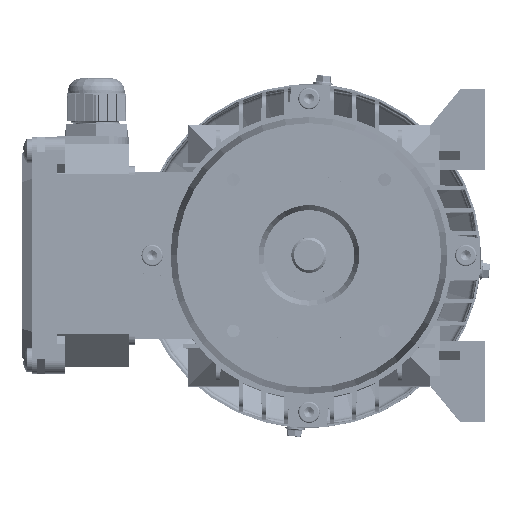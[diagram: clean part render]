
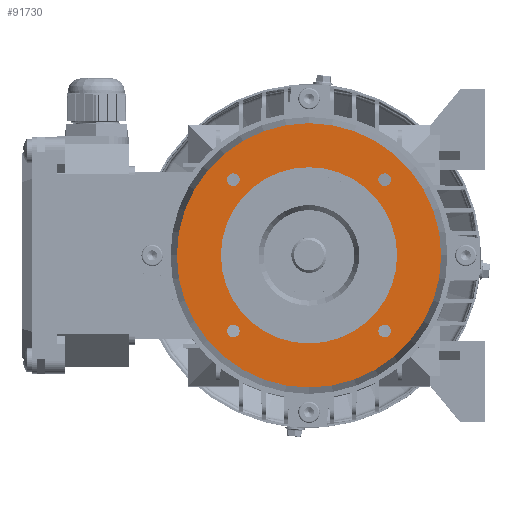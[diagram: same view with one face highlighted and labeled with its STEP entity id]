
A CAD part, top view. The second image highlights one B-rep face of the part: STEP entity #91730.
In plain terms, the highlighted planar face has unit normal (0, 0, 1).
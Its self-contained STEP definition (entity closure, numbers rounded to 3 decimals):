
#1490 = EDGE_CURVE ( 'NONE', #19619, #79712, #73488, .T. ) ;
#1855 = FACE_BOUND ( 'NONE', #131984, .T. ) ;
#1857 = EDGE_CURVE ( 'NONE', #119049, #99952, #104040, .T. ) ;
#3333 = DIRECTION ( 'NONE',  ( 0., 0., 1. ) ) ;
#4853 = CARTESIAN_POINT ( 'NONE',  ( -30.052, 30.052, -2.5 ) ) ;
#5046 = DIRECTION ( 'NONE',  ( 1., 0., 0. ) ) ;
#5124 = DIRECTION ( 'NONE',  ( 1., 0., 0. ) ) ;
#5355 = CARTESIAN_POINT ( 'NONE',  ( -30.052, -30.052, -2.5 ) ) ;
#6293 = EDGE_CURVE ( 'NONE', #79712, #19619, #58825, .T. ) ;
#7204 = DIRECTION ( 'NONE',  ( 1., 0., 0. ) ) ;
#9164 = CARTESIAN_POINT ( 'NONE',  ( 27.552, -30.052, -2.5 ) ) ;
#10759 = VERTEX_POINT ( 'NONE', #123722 ) ;
#12286 = EDGE_CURVE ( 'NONE', #118741, #31230, #102561, .T. ) ;
#14975 = VERTEX_POINT ( 'NONE', #77321 ) ;
#15804 = DIRECTION ( 'NONE',  ( 1., 0., 0. ) ) ;
#16288 = DIRECTION ( 'NONE',  ( 1., 0., 0. ) ) ;
#17052 = DIRECTION ( 'NONE',  ( 0., 0., 1. ) ) ;
#19296 = CARTESIAN_POINT ( 'NONE',  ( 0., 0., -2.5 ) ) ;
#19334 = EDGE_CURVE ( 'NONE', #14975, #57996, #36488, .T. ) ;
#19381 = DIRECTION ( 'NONE',  ( 0., 0., 1. ) ) ;
#19619 = VERTEX_POINT ( 'NONE', #40683 ) ;
#19625 = DIRECTION ( 'NONE',  ( 1., 0., 0. ) ) ;
#24200 = CARTESIAN_POINT ( 'NONE',  ( 52.5, 0., -2.5 ) ) ;
#26500 = EDGE_LOOP ( 'NONE', ( #46278, #89995 ) ) ;
#29448 = ORIENTED_EDGE ( 'NONE', *, *, #36554, .F. ) ;
#29997 = CARTESIAN_POINT ( 'NONE',  ( 35., 0., -2.5 ) ) ;
#30146 = DIRECTION ( 'NONE',  ( 1., 0., 0. ) ) ;
#30699 = FACE_OUTER_BOUND ( 'NONE', #129346, .T. ) ;
#31230 = VERTEX_POINT ( 'NONE', #122152 ) ;
#32718 = AXIS2_PLACEMENT_3D ( 'NONE', #134881, #69936, #5046 ) ;
#33005 = AXIS2_PLACEMENT_3D ( 'NONE', #68252, #3333, #79170 ) ;
#33328 = ORIENTED_EDGE ( 'NONE', *, *, #115062, .T. ) ;
#34119 = FACE_BOUND ( 'NONE', #116813, .T. ) ;
#34814 = ORIENTED_EDGE ( 'NONE', *, *, #1490, .F. ) ;
#36488 = CIRCLE ( 'NONE', #33005, 2.5 ) ;
#36554 = EDGE_CURVE ( 'NONE', #120936, #85940, #134262, .T. ) ;
#37533 = FACE_BOUND ( 'NONE', #49440, .T. ) ;
#38093 = EDGE_CURVE ( 'NONE', #57996, #14975, #42343, .T. ) ;
#38538 = DIRECTION ( 'NONE',  ( 0., 0., 1. ) ) ;
#40683 = CARTESIAN_POINT ( 'NONE',  ( -35., 0., -2.5 ) ) ;
#42139 = CIRCLE ( 'NONE', #121568, 2.5 ) ;
#42343 = CIRCLE ( 'NONE', #124612, 2.5 ) ;
#42425 = CIRCLE ( 'NONE', #70347, 52.5 ) ;
#46278 = ORIENTED_EDGE ( 'NONE', *, *, #1857, .F. ) ;
#47369 = ORIENTED_EDGE ( 'NONE', *, *, #89181, .F. ) ;
#48304 = CIRCLE ( 'NONE', #57573, 2.5 ) ;
#49440 = EDGE_LOOP ( 'NONE', ( #111126, #47369 ) ) ;
#51132 = CARTESIAN_POINT ( 'NONE',  ( 0., 0., -2.5 ) ) ;
#52140 = CIRCLE ( 'NONE', #104554, 2.5 ) ;
#56055 = EDGE_LOOP ( 'NONE', ( #117610, #67137 ) ) ;
#57573 = AXIS2_PLACEMENT_3D ( 'NONE', #126972, #62004, #137812 ) ;
#57996 = VERTEX_POINT ( 'NONE', #128610 ) ;
#58825 = CIRCLE ( 'NONE', #122574, 35. ) ;
#59503 = CARTESIAN_POINT ( 'NONE',  ( 35., 0., -2.5 ) ) ;
#59512 = FACE_BOUND ( 'NONE', #56055, .T. ) ;
#62004 = DIRECTION ( 'NONE',  ( 0., 0., 1. ) ) ;
#62033 = DIRECTION ( 'NONE',  ( 1., 0., 0. ) ) ;
#62672 = PLANE ( 'NONE',  #82942 ) ;
#67137 = ORIENTED_EDGE ( 'NONE', *, *, #19334, .F. ) ;
#68252 = CARTESIAN_POINT ( 'NONE',  ( 30.052, 30.052, -2.5 ) ) ;
#69936 = DIRECTION ( 'NONE',  ( 0., 0., 1. ) ) ;
#70004 = DIRECTION ( 'NONE',  ( 0., 0., 1. ) ) ;
#70347 = AXIS2_PLACEMENT_3D ( 'NONE', #51132, #127002, #62033 ) ;
#72114 = DIRECTION ( 'NONE',  ( 0., 0., 1. ) ) ;
#73071 = EDGE_CURVE ( 'NONE', #10759, #130322, #48304, .T. ) ;
#73488 = CIRCLE ( 'NONE', #90417, 35. ) ;
#77321 = CARTESIAN_POINT ( 'NONE',  ( 27.552, 30.052, -2.5 ) ) ;
#79170 = DIRECTION ( 'NONE',  ( 1., 0., 0. ) ) ;
#79712 = VERTEX_POINT ( 'NONE', #59503 ) ;
#80683 = DIRECTION ( 'NONE',  ( 0., 0., 1. ) ) ;
#81183 = DIRECTION ( 'NONE',  ( 0., 0., 1. ) ) ;
#81918 = CARTESIAN_POINT ( 'NONE',  ( 0., 0., -2.5 ) ) ;
#82942 = AXIS2_PLACEMENT_3D ( 'NONE', #29997, #84536, #19625 ) ;
#83778 = CARTESIAN_POINT ( 'NONE',  ( -27.552, 30.052, -2.5 ) ) ;
#84280 = CARTESIAN_POINT ( 'NONE',  ( 0., 0., -2.5 ) ) ;
#84536 = DIRECTION ( 'NONE',  ( 0., 0., 1. ) ) ;
#85940 = VERTEX_POINT ( 'NONE', #99696 ) ;
#88406 = FACE_BOUND ( 'NONE', #26500, .T. ) ;
#88818 = CARTESIAN_POINT ( 'NONE',  ( -27.552, -30.052, -2.5 ) ) ;
#89181 = EDGE_CURVE ( 'NONE', #130322, #10759, #52140, .T. ) ;
#89995 = ORIENTED_EDGE ( 'NONE', *, *, #107190, .F. ) ;
#90417 = AXIS2_PLACEMENT_3D ( 'NONE', #84280, #19381, #95212 ) ;
#91730 = ADVANCED_FACE ( 'NONE', ( #37533, #34119, #88406, #59512, #30699, #1855 ), #62672, .T. ) ;
#92894 = DIRECTION ( 'NONE',  ( 1., 0., 0. ) ) ;
#93113 = CIRCLE ( 'NONE', #32718, 2.5 ) ;
#95127 = DIRECTION ( 'NONE',  ( 0., 0., 1. ) ) ;
#95212 = DIRECTION ( 'NONE',  ( 1., 0., 0. ) ) ;
#99696 = CARTESIAN_POINT ( 'NONE',  ( -32.552, -30.052, -2.5 ) ) ;
#99952 = VERTEX_POINT ( 'NONE', #120217 ) ;
#102281 = AXIS2_PLACEMENT_3D ( 'NONE', #137047, #72114, #7204 ) ;
#102561 = CIRCLE ( 'NONE', #119459, 52.5 ) ;
#103528 = CARTESIAN_POINT ( 'NONE',  ( 30.052, 30.052, -2.5 ) ) ;
#104040 = CIRCLE ( 'NONE', #102281, 2.5 ) ;
#104554 = AXIS2_PLACEMENT_3D ( 'NONE', #134951, #70004, #5124 ) ;
#107190 = EDGE_CURVE ( 'NONE', #99952, #119049, #42139, .T. ) ;
#108127 = ORIENTED_EDGE ( 'NONE', *, *, #6293, .F. ) ;
#108165 = EDGE_CURVE ( 'NONE', #85940, #120936, #93113, .T. ) ;
#111126 = ORIENTED_EDGE ( 'NONE', *, *, #73071, .F. ) ;
#114410 = DIRECTION ( 'NONE',  ( 1., 0., 0. ) ) ;
#114783 = ORIENTED_EDGE ( 'NONE', *, *, #12286, .T. ) ;
#115062 = EDGE_CURVE ( 'NONE', #31230, #118741, #42425, .T. ) ;
#115427 = ORIENTED_EDGE ( 'NONE', *, *, #108165, .F. ) ;
#116813 = EDGE_LOOP ( 'NONE', ( #29448, #115427 ) ) ;
#117610 = ORIENTED_EDGE ( 'NONE', *, *, #38093, .F. ) ;
#118741 = VERTEX_POINT ( 'NONE', #24200 ) ;
#119049 = VERTEX_POINT ( 'NONE', #83778 ) ;
#119459 = AXIS2_PLACEMENT_3D ( 'NONE', #19296, #95127, #30146 ) ;
#120217 = CARTESIAN_POINT ( 'NONE',  ( -32.552, 30.052, -2.5 ) ) ;
#120936 = VERTEX_POINT ( 'NONE', #88818 ) ;
#121568 = AXIS2_PLACEMENT_3D ( 'NONE', #4853, #80683, #15804 ) ;
#122152 = CARTESIAN_POINT ( 'NONE',  ( -52.5, 0., -2.5 ) ) ;
#122574 = AXIS2_PLACEMENT_3D ( 'NONE', #81918, #17052, #92894 ) ;
#123585 = AXIS2_PLACEMENT_3D ( 'NONE', #5355, #81183, #16288 ) ;
#123722 = CARTESIAN_POINT ( 'NONE',  ( 32.552, -30.052, -2.5 ) ) ;
#124612 = AXIS2_PLACEMENT_3D ( 'NONE', #103528, #38538, #114410 ) ;
#126972 = CARTESIAN_POINT ( 'NONE',  ( 30.052, -30.052, -2.5 ) ) ;
#127002 = DIRECTION ( 'NONE',  ( 0., 0., 1. ) ) ;
#128610 = CARTESIAN_POINT ( 'NONE',  ( 32.552, 30.052, -2.5 ) ) ;
#129346 = EDGE_LOOP ( 'NONE', ( #114783, #33328 ) ) ;
#130322 = VERTEX_POINT ( 'NONE', #9164 ) ;
#131984 = EDGE_LOOP ( 'NONE', ( #108127, #34814 ) ) ;
#134262 = CIRCLE ( 'NONE', #123585, 2.5 ) ;
#134881 = CARTESIAN_POINT ( 'NONE',  ( -30.052, -30.052, -2.5 ) ) ;
#134951 = CARTESIAN_POINT ( 'NONE',  ( 30.052, -30.052, -2.5 ) ) ;
#137047 = CARTESIAN_POINT ( 'NONE',  ( -30.052, 30.052, -2.5 ) ) ;
#137812 = DIRECTION ( 'NONE',  ( 1., 0., 0. ) ) ;
